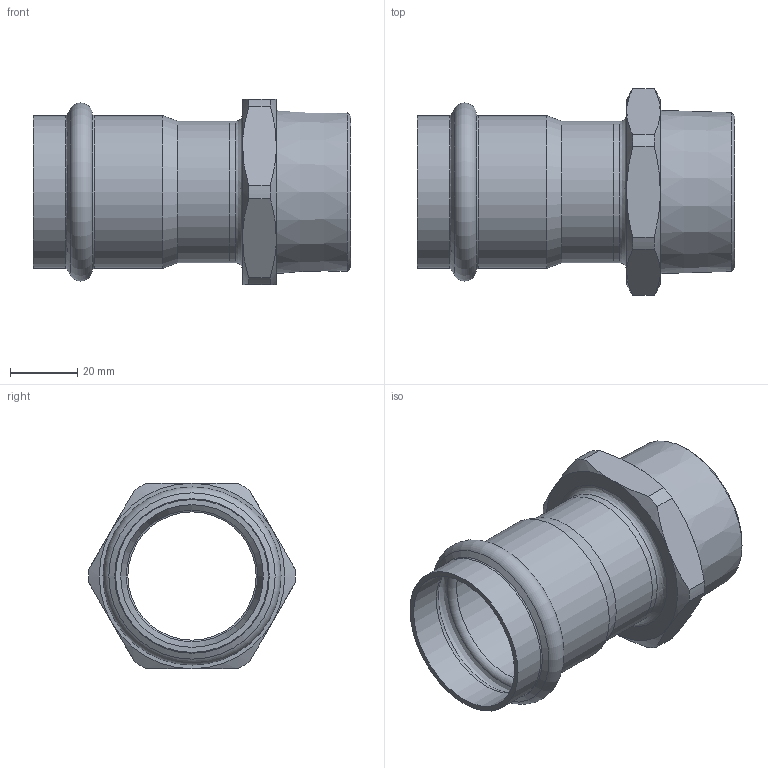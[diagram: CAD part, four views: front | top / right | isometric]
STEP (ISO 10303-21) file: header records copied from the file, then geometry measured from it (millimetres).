
FILE_DESCRIPTION((''),'2;1');
FILE_NAME('G:\Nirosan-Schmiedefeld\Technics\CAD\001 Serie 9.000\042\69243G42112H(1).stp','2017-10-23T14:06:18',('herberg'),(''),'Autodesk Inventor 2009','Autodesk Inventor 2009','');
FILE_SCHEMA(('AUTOMOTIVE_DESIGN { 1 0 10303 214 1 1 1 1 }'));
Length unit declared in the file: millimetre
Products named in the file (3): 69243G42112H(1); 69243G42HM(1); 69ATAG42R112P(0)
Assembly tree (2 placements, depth 2):
  69243G42112H(1)
    69243G42HM(1)
    69ATAG42R112P(0)
Bounding box: 94 x 61.29 x 55 mm (x, y, z)
Volume: 41993.5 mm3; surface area: 29850.5 mm2
Topology: 2 solids, 2 shells, 53 faces, 113 edges, 66 vertices
Faces by surface type: cone 18, cylinder 13, plane 12, bspline 7, torus 3
Full cylindrical faces by diameter (mm): 39 x1, 42 x2, 42.3 x2, 45.3 x2
Entity records: 1585 total; most frequent: CARTESIAN_POINT 521, DIRECTION 218, ORIENTED_EDGE 176, AXIS2_PLACEMENT_3D 103, EDGE_CURVE 88, EDGE_LOOP 82, VERTEX_POINT 64, FACE_OUTER_BOUND 53
